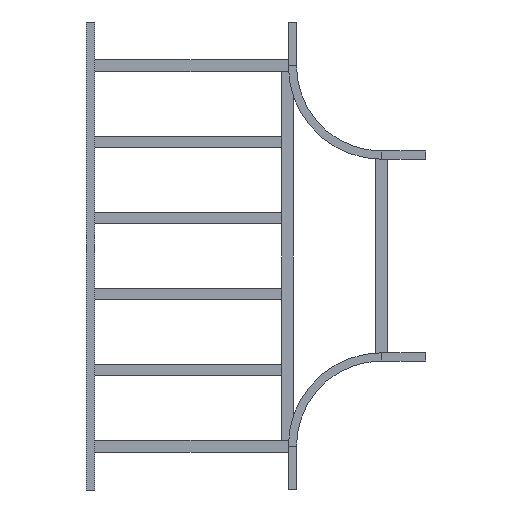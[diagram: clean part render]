
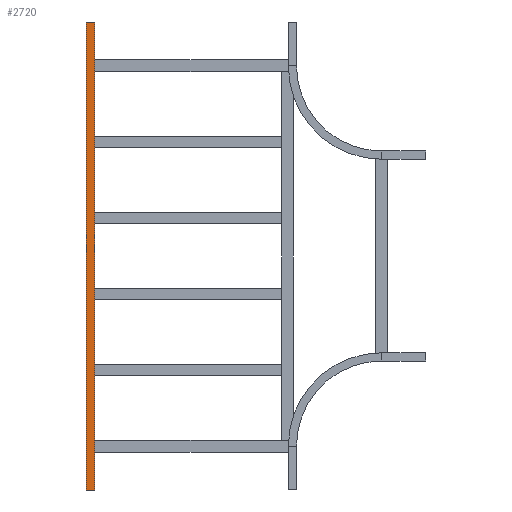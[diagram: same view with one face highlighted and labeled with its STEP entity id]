
A CAD part, front view. The second image highlights one B-rep face of the part: STEP entity #2720.
In plain terms, the highlighted planar face has unit normal (0, -1, 0).
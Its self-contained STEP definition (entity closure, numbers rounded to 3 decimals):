
#20 = ORIENTED_EDGE ( 'NONE', *, *, #1615, .T. ) ;
#142 = ORIENTED_EDGE ( 'NONE', *, *, #1955, .F. ) ;
#189 = ORIENTED_EDGE ( 'NONE', *, *, #2088, .F. ) ;
#202 = FACE_OUTER_BOUND ( 'NONE', #2627, .T. ) ;
#218 = LINE ( 'NONE', #3197, #2024 ) ;
#248 = VECTOR ( 'NONE', #2389, 1000. ) ;
#393 = VERTEX_POINT ( 'NONE', #1585 ) ;
#409 = VECTOR ( 'NONE', #2740, 1000. ) ;
#415 = AXIS2_PLACEMENT_3D ( 'NONE', #756, #2990, #740 ) ;
#729 = CARTESIAN_POINT ( 'NONE',  ( 28., 0., -1600. ) ) ;
#740 = DIRECTION ( 'NONE',  ( 1., 0., 0. ) ) ;
#756 = CARTESIAN_POINT ( 'NONE',  ( 28., 0., -1600. ) ) ;
#781 = ORIENTED_EDGE ( 'NONE', *, *, #3158, .T. ) ;
#940 = LINE ( 'NONE', #1393, #248 ) ;
#962 = CARTESIAN_POINT ( 'NONE',  ( 28., 0., -1600. ) ) ;
#1125 = CARTESIAN_POINT ( 'NONE',  ( 28., 0., 0. ) ) ;
#1313 = VERTEX_POINT ( 'NONE', #1125 ) ;
#1393 = CARTESIAN_POINT ( 'NONE',  ( 0., 0., -1600. ) ) ;
#1532 = VERTEX_POINT ( 'NONE', #2128 ) ;
#1585 = CARTESIAN_POINT ( 'NONE',  ( 0., 0., 0. ) ) ;
#1615 = EDGE_CURVE ( 'NONE', #2239, #1313, #2212, .T. ) ;
#1750 = VECTOR ( 'NONE', #3168, 1000. ) ;
#1955 = EDGE_CURVE ( 'NONE', #1532, #393, #940, .T. ) ;
#2000 = PLANE ( 'NONE',  #415 ) ;
#2024 = VECTOR ( 'NONE', #2961, 1000. ) ;
#2088 = EDGE_CURVE ( 'NONE', #393, #1313, #2273, .T. ) ;
#2128 = CARTESIAN_POINT ( 'NONE',  ( 0., 0., -1600. ) ) ;
#2212 = LINE ( 'NONE', #962, #1750 ) ;
#2239 = VERTEX_POINT ( 'NONE', #729 ) ;
#2273 = LINE ( 'NONE', #2285, #409 ) ;
#2285 = CARTESIAN_POINT ( 'NONE',  ( 28., 0., 0. ) ) ;
#2389 = DIRECTION ( 'NONE',  ( 0., 0., 1. ) ) ;
#2627 = EDGE_LOOP ( 'NONE', ( #189, #142, #781, #20 ) ) ;
#2720 = ADVANCED_FACE ( 'NONE', ( #202 ), #2000, .T. ) ;
#2740 = DIRECTION ( 'NONE',  ( 1., 0., 0. ) ) ;
#2961 = DIRECTION ( 'NONE',  ( 1., 0., 0. ) ) ;
#2990 = DIRECTION ( 'NONE',  ( 0., -1., 0. ) ) ;
#3158 = EDGE_CURVE ( 'NONE', #1532, #2239, #218, .T. ) ;
#3168 = DIRECTION ( 'NONE',  ( 0., 0., 1. ) ) ;
#3197 = CARTESIAN_POINT ( 'NONE',  ( 28., 0., -1600. ) ) ;
